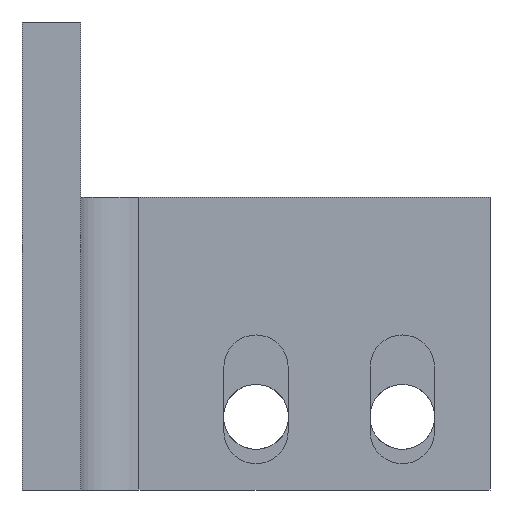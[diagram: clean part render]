
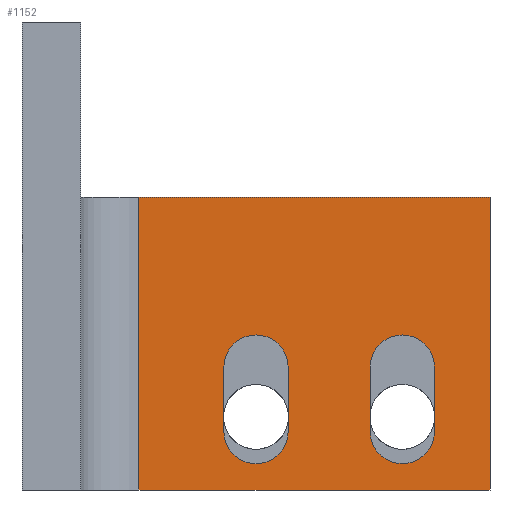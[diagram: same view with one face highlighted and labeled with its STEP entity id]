
A CAD part, front view. The second image highlights one B-rep face of the part: STEP entity #1152.
In plain terms, the highlighted planar face has unit normal (0, -1, 0).
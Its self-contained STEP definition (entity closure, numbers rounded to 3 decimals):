
#143=DIRECTION('',(1.,0.,0.));
#144=VECTOR('',#143,60.);
#145=CARTESIAN_POINT('',(20.,60.,0.));
#146=LINE('',#145,#144);
#286=DIRECTION('',(0.,0.,1.));
#287=VECTOR('',#286,50.);
#288=CARTESIAN_POINT('',(80.,60.,0.));
#289=LINE('',#288,#287);
#290=DIRECTION('',(1.,0.,0.));
#291=VECTOR('',#290,60.);
#292=CARTESIAN_POINT('',(20.,60.,50.));
#293=LINE('',#292,#291);
#294=CARTESIAN_POINT('',(65.,60.,10.));
#295=DIRECTION('',(0.,-1.,0.));
#296=DIRECTION('',(-1.,0.,0.));
#297=AXIS2_PLACEMENT_3D('',#294,#295,#296);
#299=CARTESIAN_POINT('',(65.,60.,21.));
#300=DIRECTION('',(0.,-1.,0.));
#301=DIRECTION('',(1.,0.,0.));
#302=AXIS2_PLACEMENT_3D('',#299,#300,#301);
#304=CARTESIAN_POINT('',(40.,60.,10.));
#305=DIRECTION('',(0.,-1.,0.));
#306=DIRECTION('',(-1.,0.,0.));
#307=AXIS2_PLACEMENT_3D('',#304,#305,#306);
#309=CARTESIAN_POINT('',(40.,60.,21.));
#310=DIRECTION('',(0.,-1.,0.));
#311=DIRECTION('',(1.,0.,0.));
#312=AXIS2_PLACEMENT_3D('',#309,#310,#311);
#314=DIRECTION('',(0.,0.,-1.));
#315=VECTOR('',#314,50.);
#316=CARTESIAN_POINT('',(20.,60.,50.));
#317=LINE('',#316,#315);
#344=DIRECTION('',(0.,0.,1.));
#345=VECTOR('',#344,11.);
#346=CARTESIAN_POINT('',(59.5,60.,10.));
#347=LINE('',#346,#345);
#374=DIRECTION('',(0.,0.,-1.));
#375=VECTOR('',#374,11.);
#376=CARTESIAN_POINT('',(70.5,60.,21.));
#377=LINE('',#376,#375);
#440=DIRECTION('',(0.,0.,1.));
#441=VECTOR('',#440,11.);
#442=CARTESIAN_POINT('',(34.5,60.,10.));
#443=LINE('',#442,#441);
#470=DIRECTION('',(0.,0.,-1.));
#471=VECTOR('',#470,11.);
#472=CARTESIAN_POINT('',(45.5,60.,21.));
#473=LINE('',#472,#471);
#670=CARTESIAN_POINT('',(20.,60.,0.));
#671=VERTEX_POINT('',#670);
#672=CARTESIAN_POINT('',(80.,60.,0.));
#673=VERTEX_POINT('',#672);
#722=CARTESIAN_POINT('',(80.,60.,50.));
#723=VERTEX_POINT('',#722);
#724=CARTESIAN_POINT('',(20.,60.,50.));
#725=VERTEX_POINT('',#724);
#726=CARTESIAN_POINT('',(59.5,60.,10.));
#727=CARTESIAN_POINT('',(70.5,60.,10.));
#728=VERTEX_POINT('',#726);
#729=VERTEX_POINT('',#727);
#730=CARTESIAN_POINT('',(70.5,60.,21.));
#731=VERTEX_POINT('',#730);
#732=CARTESIAN_POINT('',(59.5,60.,21.));
#733=VERTEX_POINT('',#732);
#734=CARTESIAN_POINT('',(34.5,60.,10.));
#735=CARTESIAN_POINT('',(45.5,60.,10.));
#736=VERTEX_POINT('',#734);
#737=VERTEX_POINT('',#735);
#738=CARTESIAN_POINT('',(45.5,60.,21.));
#739=VERTEX_POINT('',#738);
#740=CARTESIAN_POINT('',(34.5,60.,21.));
#741=VERTEX_POINT('',#740);
#1120=CARTESIAN_POINT('',(20.,60.,0.));
#1121=DIRECTION('',(0.,1.,0.));
#1122=DIRECTION('',(1.,0.,0.));
#1123=AXIS2_PLACEMENT_3D('',#1120,#1121,#1122);
#1124=PLANE('',#1123);
#1125=ORIENTED_EDGE('',*,*,#1099,.T.);
#1126=ORIENTED_EDGE('',*,*,#1115,.F.);
#1127=ORIENTED_EDGE('',*,*,#946,.F.);
#1129=ORIENTED_EDGE('',*,*,#1128,.F.);
#1130=EDGE_LOOP('',(#1125,#1126,#1127,#1129));
#1131=FACE_OUTER_BOUND('',#1130,.F.);
#1133=ORIENTED_EDGE('',*,*,#1132,.T.);
#1135=ORIENTED_EDGE('',*,*,#1134,.F.);
#1137=ORIENTED_EDGE('',*,*,#1136,.T.);
#1139=ORIENTED_EDGE('',*,*,#1138,.F.);
#1140=EDGE_LOOP('',(#1133,#1135,#1137,#1139));
#1141=FACE_BOUND('',#1140,.F.);
#1143=ORIENTED_EDGE('',*,*,#1142,.T.);
#1145=ORIENTED_EDGE('',*,*,#1144,.F.);
#1147=ORIENTED_EDGE('',*,*,#1146,.T.);
#1149=ORIENTED_EDGE('',*,*,#1148,.F.);
#1150=EDGE_LOOP('',(#1143,#1145,#1147,#1149));
#1151=FACE_BOUND('',#1150,.F.);
#298=CIRCLE('',#297,5.5);
#303=CIRCLE('',#302,5.5);
#308=CIRCLE('',#307,5.5);
#313=CIRCLE('',#312,5.5);
#946=EDGE_CURVE('',#671,#673,#146,.T.);
#1099=EDGE_CURVE('',#725,#723,#293,.T.);
#1115=EDGE_CURVE('',#673,#723,#289,.T.);
#1128=EDGE_CURVE('',#725,#671,#317,.T.);
#1132=EDGE_CURVE('',#728,#729,#298,.T.);
#1134=EDGE_CURVE('',#731,#729,#377,.T.);
#1136=EDGE_CURVE('',#731,#733,#303,.T.);
#1138=EDGE_CURVE('',#728,#733,#347,.T.);
#1142=EDGE_CURVE('',#736,#737,#308,.T.);
#1144=EDGE_CURVE('',#739,#737,#473,.T.);
#1146=EDGE_CURVE('',#739,#741,#313,.T.);
#1148=EDGE_CURVE('',#736,#741,#443,.T.);
#1152=ADVANCED_FACE('',(#1131,#1141,#1151),#1124,.F.);
